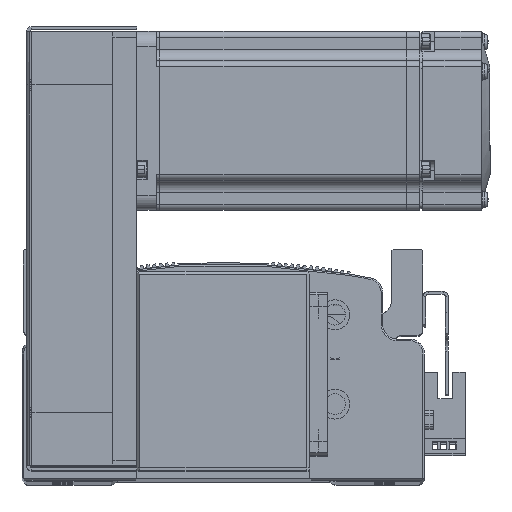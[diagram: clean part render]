
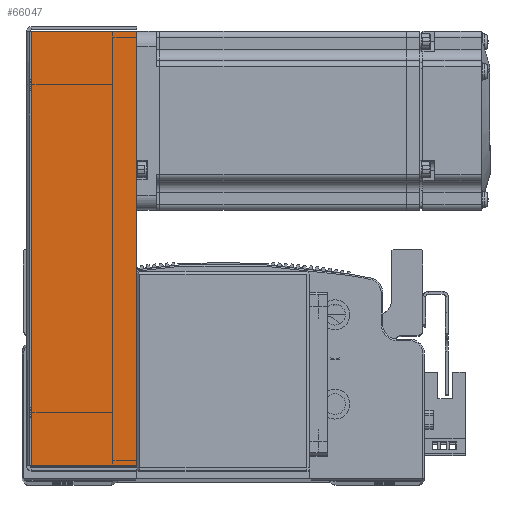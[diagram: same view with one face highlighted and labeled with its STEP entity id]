
A CAD part, top view. The second image highlights one B-rep face of the part: STEP entity #66047.
In plain terms, the highlighted planar face has unit normal (0, 0, 1).
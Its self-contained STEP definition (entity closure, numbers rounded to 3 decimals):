
#5422 = CARTESIAN_POINT ( 'NONE',  ( 72.793, 0.737, 34.5 ) ) ;
#5436 = CARTESIAN_POINT ( 'NONE',  ( 72.793, 36., 34.5 ) ) ;
#5454 = CARTESIAN_POINT ( 'NONE',  ( -72.793, 0.737, 34.5 ) ) ;
#5491 = CARTESIAN_POINT ( 'NONE',  ( -72.793, 36., 34.5 ) ) ;
#20314 = AXIS2_PLACEMENT_3D ( 'NONE', #75646, #75670, #75691 ) ;
#26588 = EDGE_CURVE ( 'NONE', #56774, #56767, #44094, .T. ) ;
#26591 = EDGE_CURVE ( 'NONE', #56767, #56801, #44099, .T. ) ;
#26617 = EDGE_CURVE ( 'NONE', #56774, #56753, #44197, .T. ) ;
#26635 = EDGE_CURVE ( 'NONE', #56753, #56801, #44300, .T. ) ;
#41284 = DIRECTION ( 'NONE',  ( -1., 0., 0. ) ) ;
#41350 = CARTESIAN_POINT ( 'NONE',  ( -74.5, 0.737, 34.5 ) ) ;
#41403 = CARTESIAN_POINT ( 'NONE',  ( -72.793, 0., 34.5 ) ) ;
#41418 = DIRECTION ( 'NONE',  ( 0., 1., 0. ) ) ;
#41516 = CARTESIAN_POINT ( 'NONE',  ( 72.793, 0., 34.5 ) ) ;
#41522 = DIRECTION ( 'NONE',  ( 0., 1., 0. ) ) ;
#41592 = CARTESIAN_POINT ( 'NONE',  ( 0., 36., 34.5 ) ) ;
#41597 = DIRECTION ( 'NONE',  ( -1., 0., 0. ) ) ;
#44094 = LINE ( 'NONE', #41350, #44111 ) ;
#44099 = LINE ( 'NONE', #41403, #44144 ) ;
#44111 = VECTOR ( 'NONE', #41284, 1000. ) ;
#44144 = VECTOR ( 'NONE', #41418, 1000. ) ;
#44197 = LINE ( 'NONE', #41516, #44225 ) ;
#44225 = VECTOR ( 'NONE', #41522, 1000. ) ;
#44291 = VECTOR ( 'NONE', #41597, 1000. ) ;
#44300 = LINE ( 'NONE', #41592, #44291 ) ;
#55386 = EDGE_LOOP ( 'NONE', ( #60525, #60495, #60448, #60462 ) ) ;
#56753 = VERTEX_POINT ( 'NONE', #5436 ) ;
#56767 = VERTEX_POINT ( 'NONE', #5454 ) ;
#56774 = VERTEX_POINT ( 'NONE', #5422 ) ;
#56801 = VERTEX_POINT ( 'NONE', #5491 ) ;
#60448 = ORIENTED_EDGE ( 'NONE', *, *, #26635, .T. ) ;
#60462 = ORIENTED_EDGE ( 'NONE', *, *, #26591, .F. ) ;
#60495 = ORIENTED_EDGE ( 'NONE', *, *, #26617, .T. ) ;
#60525 = ORIENTED_EDGE ( 'NONE', *, *, #26588, .F. ) ;
#66047 = ADVANCED_FACE ( 'NONE', ( #81752 ), #75679, .F. ) ;
#75646 = CARTESIAN_POINT ( 'NONE',  ( 0., 0., 34.5 ) ) ;
#75670 = DIRECTION ( 'NONE',  ( 0., 0., -1. ) ) ;
#75679 = PLANE ( 'NONE',  #20314 ) ;
#75691 = DIRECTION ( 'NONE',  ( -1., 0., 0. ) ) ;
#81752 = FACE_OUTER_BOUND ( 'NONE', #55386, .T. ) ;
